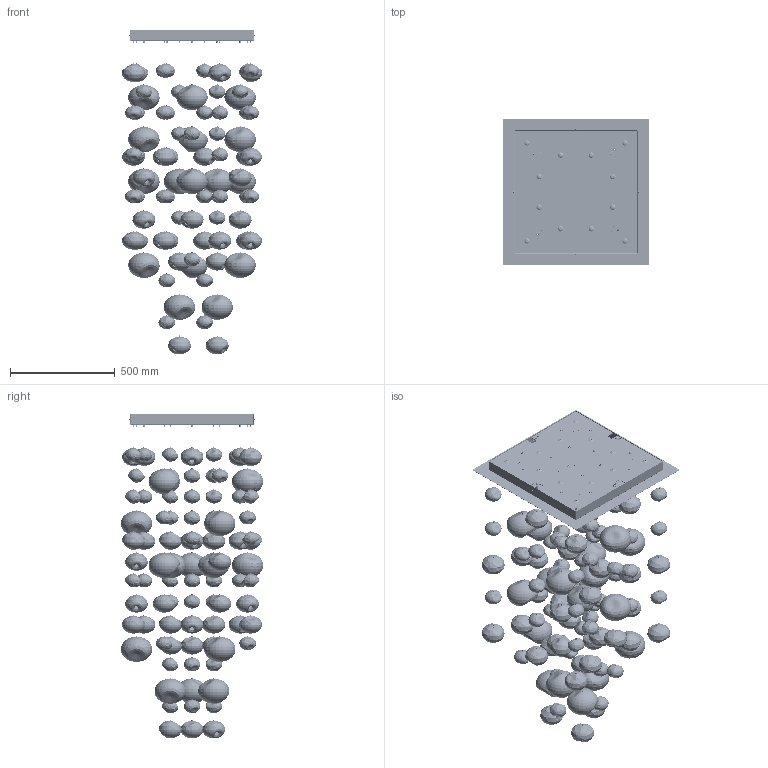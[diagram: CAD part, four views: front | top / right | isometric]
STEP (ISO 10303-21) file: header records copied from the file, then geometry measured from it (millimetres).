
FILE_DESCRIPTION(/* description */ (''),/* implementation_level */ '2;1');
FILE_NAME(/* name */ 'ETHER SQUARE A 150',/* time_stamp */ '2025-09-04T16:02:08+02:00',/* author */ (''),/* organization */ (''),/* preprocessor_version */ 'ST-DEVELOPER v16.5',/* originating_system */ 'Rhino 7.38',/* authorisation */ '');
FILE_SCHEMA (('CONFIG_CONTROL_DESIGN'));
Products named in the file (52): Document; DADO M4 DIN934 ZB; RONDELLA DENTELLATA ESTERNA M4; Z0033; Z0008; K011; RONDELLA M4 D.12 H1 ZINCATA DIN9021; VITE TCEI M4X6 UNI5931 ZB; X0072; Z0009; 146C006; VITE TCEI M4X12 UNI5931 ZB; W027; 146C010-G-927; Z0022; C026-927; C005; C008; B005; Vite TSP CR M3x8 zincata; VITE TC AUTOFIL M2,9X9,5 ZN UNI6954AB DIN7981C; K001; R001-36; 146C005; RONDELLA Ø7 H2 F.Ø3.2 STEAB 5021-2-118; VITE AUTOFIL. Ø2.9X6.5 TCC UNI 6954 AB; VITE TCEI M3X25 UNI5931 ZB; E007-0,5A; W037; Z017-P; W042; W044; 146C009; 146C009-1; 146C009-2; X0057-008; 146C003; 146C021-F; 146C016-H; 146C014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
Assembly tree (263 placements, depth 3):
  Document
    DADO M4 DIN934 ZB  x4
    RONDELLA DENTELLATA ESTERNA M4  x4
    Z0033  x4
      Z0008
      K011
    RONDELLA M4 D.12 H1 ZINCATA DIN9021  x4
    VITE TCEI M4X6 UNI5931 ZB  x4
    X0072  x22
    Z0009  x22
    146C006  x22
    VITE TCEI M4X12 UNI5931 ZB  x4
    W027
    146C010-G-927  x4
      Z0022
      C026-927
      C005
      C008
      B005
      Vite TSP CR M3x8 zincata
      VITE TC AUTOFIL M2,9X9,5 ZN UNI6954AB DIN7981C
      K001
      R001-36
      146C005
      RONDELLA Ø7 H2 F.Ø3.2 STEAB 5021-2-118
      VITE AUTOFIL. Ø2.9X6.5 TCC UNI 6954 AB
      VITE TCEI M3X25 UNI5931 ZB
      E007-0,5A
      W037
      Z017-P
      W042
      W044
    146C009
      146C009-1
      146C009-2
      X0057-008  x5
    146C003
    146C021-F  x5
      146C016-H
      146C014
      146C013
      SEEGER N.4 ZINCATO minetti
      146C011
    146C021-D  x5
      146C016-H
      146C014
      146C013
      146C011
      SEEGER N.4 ZINCATO minetti
    146C021-A  x3
      146C016-E
      146C015
      146C013
      146C014
      SEEGER N.4 ZINCATO minetti
      146C011
    146C021-B  x3
      146C016-F
      146C014
      146C013
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Bounding box: 700 x 700 x 1549.12 mm (x, y, z)
Volume: 6163064.6 mm3; surface area: 9051062.9 mm2
Topology: 600 solids, 641 shells, 20350 faces, 52618 edges, 34491 vertices
Faces by surface type: plane 9864, cylinder 6397, bspline 4089
Full cylindrical faces by diameter (mm): 0.65 x5, 0.88 x8, 1 x127, 1.02 x1, 1.15 x16, 1.25 x4, 1.5 x16, 2 x44, 2.25 x8, 2.3 x16, 2.459 x19, 2.8 x8, 2.9 x29, 3 x150, 3.1 x8, 3.2 x12, 3.242 x12, 3.3 x30, 3.5 x22, 4 x43, 4.3 x12, 4.9 x4, 5 x8, 5.5 x21, 5.6 x8, 5.8 x4, 6 x41, 6.5 x56, 6.6 x8, 7 x30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
Entity records: 367136 total; most frequent: CARTESIAN_POINT 296709, ORIENTED_EDGE 16145, EDGE_CURVE 8074, VERTEX_POINT 5324, B_SPLINE_CURVE_WITH_KNOTS 5064, EDGE_LOOP 3522, DIRECTION 3095, ADVANCED_FACE 3019
